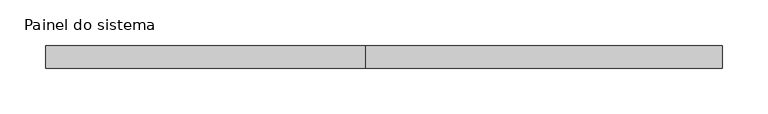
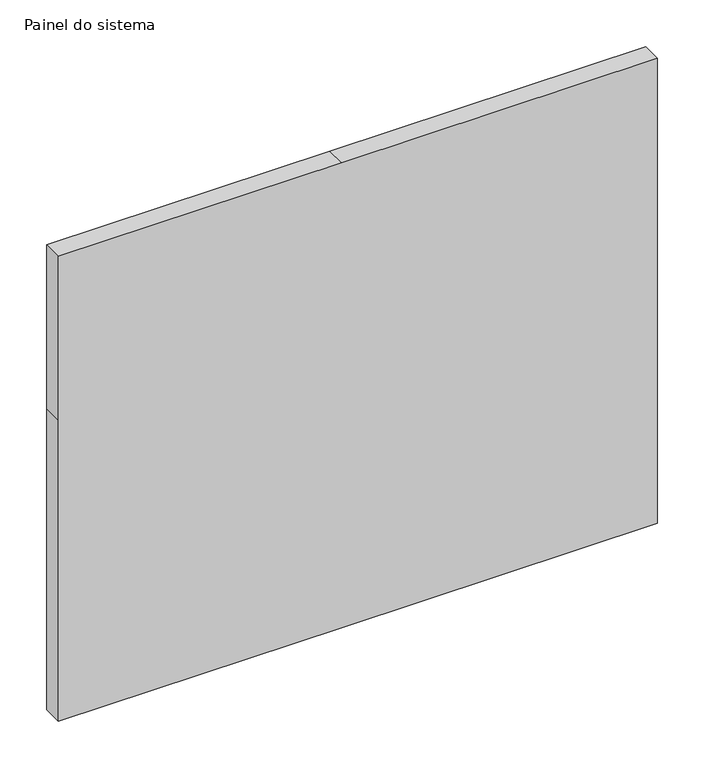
"""IFC4 building model written with IfcOpenShell, lengths in millimetres: plate geometry, Painel do sistema : Envidraçado."""

from ifc_helpers import new_model, si_unit, frame, origin, place, context, project, spatial, polyline, outline, extrude, source, transform, mapped, element, save


def painel_do_sistema_79f1f8a7(model_context):
    return source(origin(), model_context, "Body", "SweptSolid", [
        extrude(outline(polyline([(0.0, -371.6829921), (0.0, -19.983504), (0.0, 371.6829921), (395.0, 371.6829921), (610.0, 371.6829921), (610.0, -19.983504), (610.0, -371.6829921), (395.0, -371.6829921), (0.0, -371.6829921)])), frame((0.0, 24.5, 0.0), z_axis=(0.0, 1.0, 0.0), x_axis=(0.0, 0.0, 1.0)), (0.0, 0.0, 1.0), 25.0),
    ])


if __name__ == "__main__":
    model = new_model("IFC4")
    model_context = context("Model", 3, world=origin())
    ifc_project = project(units=[si_unit("LENGTHUNIT", "METRE", prefix="MILLI")], contexts=[model_context])
    site = spatial("IfcSite", under=ifc_project)
    building = spatial("IfcBuilding", under=site)
    placement = place(None, origin())
    painel_do_sistema_shape = painel_do_sistema_79f1f8a7(model_context)
    element("IfcPlate", 1, ObjectType="Painel do sistema : Envidraçado", at=placement, inside=building, context=model_context, shape_type="MappedRepresentation", body=[
        mapped(painel_do_sistema_shape, transform((0.0, 0.0, 0.0), x_axis=(1.0, 0.0, 0.0), y_axis=(0.0, 1.0, 0.0), z_axis=(0.0, 0.0, 1.0))),
    ])
    save(model, "model.ifc")
